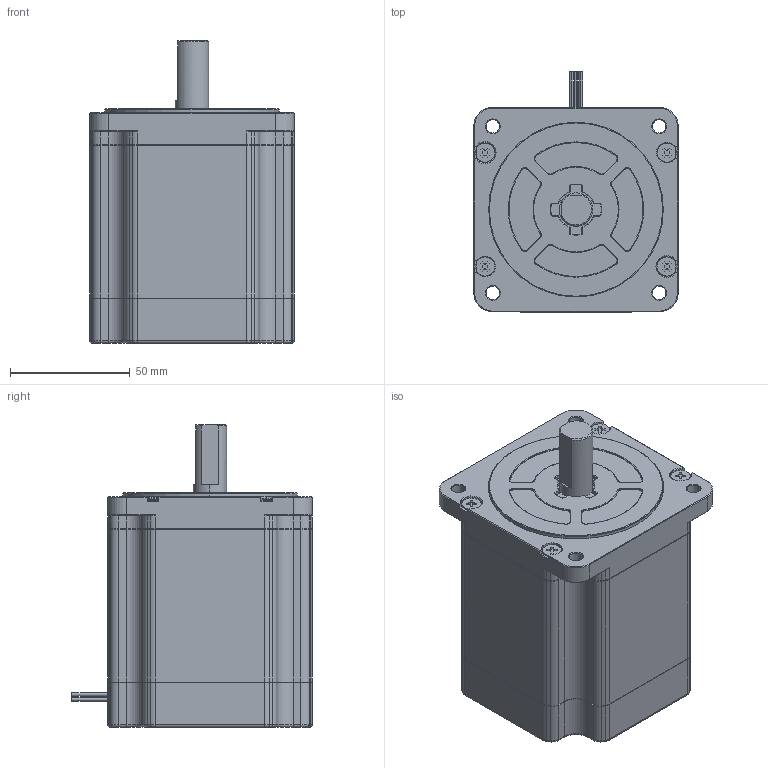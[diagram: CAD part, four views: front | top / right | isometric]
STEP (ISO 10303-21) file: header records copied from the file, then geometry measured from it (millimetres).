
FILE_DESCRIPTION (( 'STEP AP203' ), '1' );
FILE_NAME ('SH2862-0941.STEP', '2012-06-27T07:50:28', ( 'sanyodenki-admin' ), ( '' ), 'SwSTEP 2.0', 'SolidWorks 2011', '' );
FILE_SCHEMA (( 'CONFIG_CONTROL_DESIGN' ));
Length unit declared in the file: millimetre
Products named in the file (1): SH2862-0941
Bounding box: 85.5 x 100.5 x 126.45 mm (x, y, z)
Volume: 635525.7 mm3; surface area: 47674.6 mm2
Topology: 1 solids, 1 shells, 670 faces, 1665 edges, 1017 vertices
Faces by surface type: cylinder 246, plane 224, cone 140, torus 60
Entity records: 19943 total; most frequent: DIRECTION 3728, CARTESIAN_POINT 3413, ORIENTED_EDGE 3330, EDGE_CURVE 1665, AXIS2_PLACEMENT_3D 1412, VERTEX_POINT 1017, LINE 904, VECTOR 904
